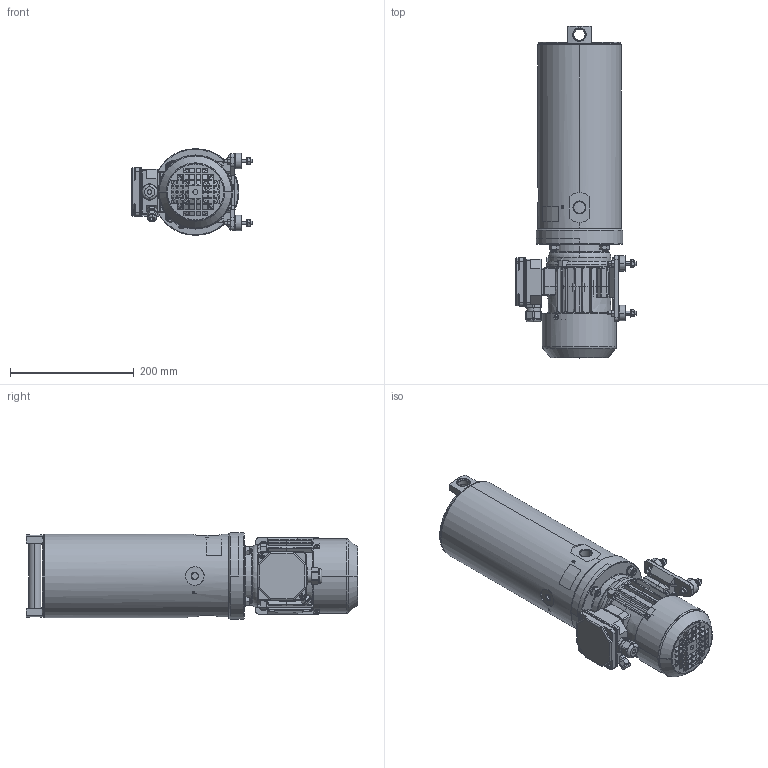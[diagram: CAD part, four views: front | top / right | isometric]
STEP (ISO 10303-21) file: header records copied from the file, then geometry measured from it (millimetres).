
FILE_DESCRIPTION((''),'2;1');
FILE_NAME('PRT0002','2017-10-24T',('f.kollmann'),(''),'PRO/ENGINEER BY PARAMETRIC TECHNOLOGY CORPORATION, 2015110','PRO/ENGINEER BY PARAMETRIC TECHNOLOGY CORPORATION, 2015110','');
FILE_SCHEMA(('AUTOMOTIVE_DESIGN { 1 0 10303 214 1 1 1 1 }'));
Products named in the file (1): PRT0002
Bounding box: 194.93 x 535.7 x 140 mm (x, y, z)
Volume: 5905234.6 mm3; surface area: 486893.4 mm2
Topology: 2 solids, 32 shells, 2591 faces, 7296 edges, 4833 vertices
Faces by surface type: plane 1202, cylinder 810, cone 370, torus 108, bspline 84, extrusion 12, sphere 5
Entity records: 133065 total; most frequent: CARTESIAN_POINT 29299, ORIENTED_EDGE 14472, DIRECTION 13549, PRESENTATION_STYLE_ASSIGNMENT 9193, STYLED_ITEM 7279, CURVE_STYLE 7269, EDGE_CURVE 7257, AXIS2_PLACEMENT_3D 5017
